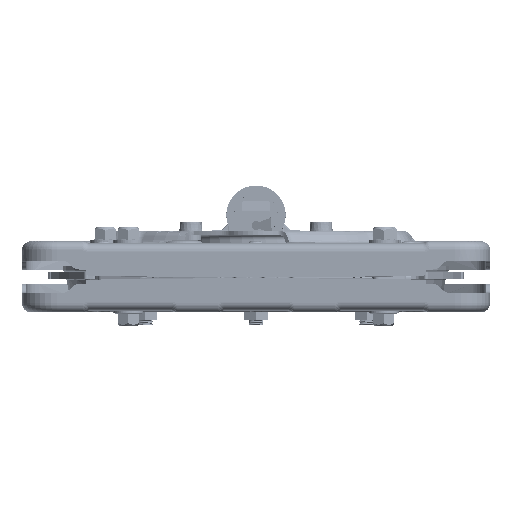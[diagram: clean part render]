
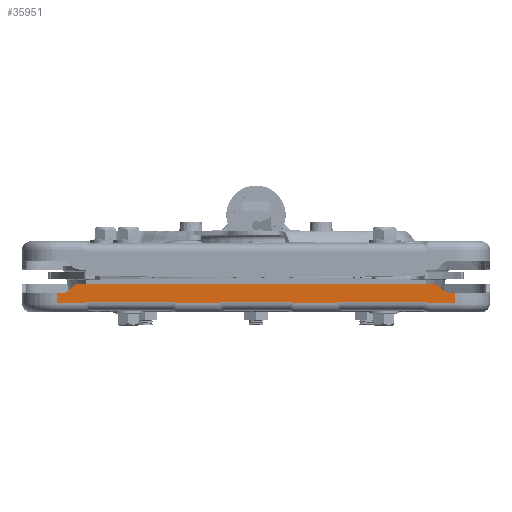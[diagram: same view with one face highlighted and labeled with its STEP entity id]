
A CAD part, left-side view. The second image highlights one B-rep face of the part: STEP entity #35951.
In plain terms, the highlighted planar face has unit normal (-1, 0, 0).
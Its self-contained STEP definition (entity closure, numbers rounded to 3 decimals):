
#34042=AXIS2_PLACEMENT_3D('Circle Axis2P3D',#34040,#34041,$) ;
#34097=AXIS2_PLACEMENT_3D('Circle Axis2P3D',#34095,#34096,$) ;
#34639=AXIS2_PLACEMENT_3D('Circle Axis2P3D',#34637,#34638,$) ;
#34687=AXIS2_PLACEMENT_3D('Circle Axis2P3D',#34685,#34686,$) ;
#35820=AXIS2_PLACEMENT_3D('Plane Axis2P3D',#35817,#35818,#35819) ;
#35838=AXIS2_PLACEMENT_3D('Circle Axis2P3D',#35836,#35837,$) ;
#35852=AXIS2_PLACEMENT_3D('Circle Axis2P3D',#35850,#35851,$) ;
#35866=AXIS2_PLACEMENT_3D('Circle Axis2P3D',#35864,#35865,$) ;
#35880=AXIS2_PLACEMENT_3D('Circle Axis2P3D',#35878,#35879,$) ;
#35894=AXIS2_PLACEMENT_3D('Circle Axis2P3D',#35892,#35893,$) ;
#35908=AXIS2_PLACEMENT_3D('Circle Axis2P3D',#35906,#35907,$) ;
#34040=CARTESIAN_POINT('Axis2P3D Location',(-225.,-99.929,11.)) ;
#34044=CARTESIAN_POINT('Vertex',(-225.,-99.929,16.)) ;
#34046=CARTESIAN_POINT('Vertex',(-225.,-103.464,14.536)) ;
#34071=CARTESIAN_POINT('Line Origine',(-225.,-104.5,13.5)) ;
#34075=CARTESIAN_POINT('Vertex',(-225.,-105.536,12.464)) ;
#34095=CARTESIAN_POINT('Axis2P3D Location',(-225.,-109.071,16.)) ;
#34099=CARTESIAN_POINT('Vertex',(-225.,-109.071,11.)) ;
#34140=CARTESIAN_POINT('Line Origine',(-225.,-110.536,11.)) ;
#34144=CARTESIAN_POINT('Vertex',(-225.,-112.,11.)) ;
#34605=CARTESIAN_POINT('Vertex',(-225.,112.,11.)) ;
#34608=CARTESIAN_POINT('Line Origine',(-225.,110.536,11.)) ;
#34612=CARTESIAN_POINT('Vertex',(-225.,109.071,11.)) ;
#34637=CARTESIAN_POINT('Axis2P3D Location',(-225.,109.071,16.)) ;
#34641=CARTESIAN_POINT('Vertex',(-225.,105.536,12.464)) ;
#34661=CARTESIAN_POINT('Line Origine',(-225.,104.5,13.5)) ;
#34665=CARTESIAN_POINT('Vertex',(-225.,103.464,14.536)) ;
#34685=CARTESIAN_POINT('Axis2P3D Location',(-225.,99.929,11.)) ;
#34689=CARTESIAN_POINT('Vertex',(-225.,99.929,16.)) ;
#34709=CARTESIAN_POINT('Line Origine',(-225.,0.,16.)) ;
#35817=CARTESIAN_POINT('Axis2P3D Location',(-225.,132.,0.)) ;
#35822=CARTESIAN_POINT('Line Origine',(-225.,112.,8.)) ;
#35826=CARTESIAN_POINT('Vertex',(-225.,112.,5.)) ;
#35829=CARTESIAN_POINT('Line Origine',(-225.,104.803,5.)) ;
#35833=CARTESIAN_POINT('Vertex',(-225.,97.606,5.)) ;
#35836=CARTESIAN_POINT('Axis2P3D Location',(-225.,94.,-1.)) ;
#35840=CARTESIAN_POINT('Vertex',(-225.,94.,6.)) ;
#35843=CARTESIAN_POINT('Line Origine',(-225.,71.,6.)) ;
#35847=CARTESIAN_POINT('Vertex',(-225.,48.,6.)) ;
#35850=CARTESIAN_POINT('Axis2P3D Location',(-225.,48.,-1.)) ;
#35854=CARTESIAN_POINT('Vertex',(-225.,44.394,5.)) ;
#35857=CARTESIAN_POINT('Line Origine',(-225.,33.,5.)) ;
#35861=CARTESIAN_POINT('Vertex',(-225.,21.606,5.)) ;
#35864=CARTESIAN_POINT('Axis2P3D Location',(-225.,18.,-1.)) ;
#35868=CARTESIAN_POINT('Vertex',(-225.,18.,6.)) ;
#35871=CARTESIAN_POINT('Line Origine',(-225.,0.,6.)) ;
#35875=CARTESIAN_POINT('Vertex',(-225.,-18.,6.)) ;
#35878=CARTESIAN_POINT('Axis2P3D Location',(-225.,-18.,-1.)) ;
#35882=CARTESIAN_POINT('Vertex',(-225.,-21.606,5.)) ;
#35885=CARTESIAN_POINT('Line Origine',(-225.,-33.,5.)) ;
#35889=CARTESIAN_POINT('Vertex',(-225.,-44.394,5.)) ;
#35892=CARTESIAN_POINT('Axis2P3D Location',(-225.,-48.,-1.)) ;
#35896=CARTESIAN_POINT('Vertex',(-225.,-48.,6.)) ;
#35899=CARTESIAN_POINT('Line Origine',(-225.,-71.,6.)) ;
#35903=CARTESIAN_POINT('Vertex',(-225.,-94.,6.)) ;
#35906=CARTESIAN_POINT('Axis2P3D Location',(-225.,-94.,-1.)) ;
#35910=CARTESIAN_POINT('Vertex',(-225.,-97.606,5.)) ;
#35913=CARTESIAN_POINT('Line Origine',(-225.,-104.803,5.)) ;
#35917=CARTESIAN_POINT('Vertex',(-225.,-112.,5.)) ;
#35920=CARTESIAN_POINT('Line Origine',(-225.,-112.,8.)) ;
#34041=DIRECTION('Axis2P3D Direction',(-1.,0.,0.)) ;
#34072=DIRECTION('Vector Direction',(0.,0.707,0.707)) ;
#34096=DIRECTION('Axis2P3D Direction',(-1.,0.,-0.)) ;
#34141=DIRECTION('Vector Direction',(0.,-1.,0.)) ;
#34609=DIRECTION('Vector Direction',(0.,1.,0.)) ;
#34638=DIRECTION('Axis2P3D Direction',(1.,0.,0.)) ;
#34662=DIRECTION('Vector Direction',(0.,-0.707,0.707)) ;
#34686=DIRECTION('Axis2P3D Direction',(1.,0.,-0.)) ;
#34710=DIRECTION('Vector Direction',(0.,-1.,0.)) ;
#35818=DIRECTION('Axis2P3D Direction',(-1.,-0.,0.)) ;
#35819=DIRECTION('Axis2P3D XDirection',(0.,-1.,-0.)) ;
#35823=DIRECTION('Vector Direction',(0.,0.,1.)) ;
#35830=DIRECTION('Vector Direction',(0.,-1.,0.)) ;
#35837=DIRECTION('Axis2P3D Direction',(-1.,-0.,0.)) ;
#35844=DIRECTION('Vector Direction',(0.,-1.,0.)) ;
#35851=DIRECTION('Axis2P3D Direction',(-1.,-0.,0.)) ;
#35858=DIRECTION('Vector Direction',(0.,-1.,0.)) ;
#35865=DIRECTION('Axis2P3D Direction',(-1.,-0.,0.)) ;
#35872=DIRECTION('Vector Direction',(0.,-1.,0.)) ;
#35879=DIRECTION('Axis2P3D Direction',(-1.,-0.,0.)) ;
#35886=DIRECTION('Vector Direction',(0.,-1.,0.)) ;
#35893=DIRECTION('Axis2P3D Direction',(-1.,-0.,0.)) ;
#35900=DIRECTION('Vector Direction',(0.,-1.,0.)) ;
#35907=DIRECTION('Axis2P3D Direction',(-1.,-0.,0.)) ;
#35914=DIRECTION('Vector Direction',(0.,-1.,0.)) ;
#35921=DIRECTION('Vector Direction',(0.,0.,1.)) ;
#34073=VECTOR('Line Direction',#34072,1.) ;
#34142=VECTOR('Line Direction',#34141,1.) ;
#34610=VECTOR('Line Direction',#34609,1.) ;
#34663=VECTOR('Line Direction',#34662,1.) ;
#34711=VECTOR('Line Direction',#34710,1.) ;
#35824=VECTOR('Line Direction',#35823,1.) ;
#35831=VECTOR('Line Direction',#35830,1.) ;
#35845=VECTOR('Line Direction',#35844,1.) ;
#35859=VECTOR('Line Direction',#35858,1.) ;
#35873=VECTOR('Line Direction',#35872,1.) ;
#35887=VECTOR('Line Direction',#35886,1.) ;
#35901=VECTOR('Line Direction',#35900,1.) ;
#35915=VECTOR('Line Direction',#35914,1.) ;
#35922=VECTOR('Line Direction',#35921,1.) ;
#35926=ORIENTED_EDGE('',*,*,#34713,.T.) ;
#35927=ORIENTED_EDGE('',*,*,#34691,.F.) ;
#35928=ORIENTED_EDGE('',*,*,#34667,.F.) ;
#35929=ORIENTED_EDGE('',*,*,#34643,.F.) ;
#35930=ORIENTED_EDGE('',*,*,#34614,.T.) ;
#35931=ORIENTED_EDGE('',*,*,#35828,.F.) ;
#35932=ORIENTED_EDGE('',*,*,#35835,.F.) ;
#35933=ORIENTED_EDGE('',*,*,#35842,.F.) ;
#35934=ORIENTED_EDGE('',*,*,#35849,.F.) ;
#35935=ORIENTED_EDGE('',*,*,#35856,.F.) ;
#35936=ORIENTED_EDGE('',*,*,#35863,.F.) ;
#35937=ORIENTED_EDGE('',*,*,#35870,.F.) ;
#35938=ORIENTED_EDGE('',*,*,#35877,.F.) ;
#35939=ORIENTED_EDGE('',*,*,#35884,.F.) ;
#35940=ORIENTED_EDGE('',*,*,#35891,.F.) ;
#35941=ORIENTED_EDGE('',*,*,#35898,.F.) ;
#35942=ORIENTED_EDGE('',*,*,#35905,.F.) ;
#35943=ORIENTED_EDGE('',*,*,#35912,.F.) ;
#35944=ORIENTED_EDGE('',*,*,#35919,.F.) ;
#35945=ORIENTED_EDGE('',*,*,#35924,.T.) ;
#35946=ORIENTED_EDGE('',*,*,#34146,.F.) ;
#35947=ORIENTED_EDGE('',*,*,#34101,.F.) ;
#35948=ORIENTED_EDGE('',*,*,#34077,.T.) ;
#35949=ORIENTED_EDGE('',*,*,#34048,.F.) ;
#35951=ADVANCED_FACE('\X2\5E9590E894A391D1\X0\1',(#35950),#35821,.T.) ;
#34043=CIRCLE('generated circle',#34042,5.) ;
#34098=CIRCLE('generated circle',#34097,5.) ;
#34640=CIRCLE('generated circle',#34639,5.) ;
#34688=CIRCLE('generated circle',#34687,5.) ;
#35839=CIRCLE('generated circle',#35838,7.) ;
#35853=CIRCLE('generated circle',#35852,7.) ;
#35867=CIRCLE('generated circle',#35866,7.) ;
#35881=CIRCLE('generated circle',#35880,7.) ;
#35895=CIRCLE('generated circle',#35894,7.) ;
#35909=CIRCLE('generated circle',#35908,7.) ;
#34048=EDGE_CURVE('',#34045,#34047,#34043,.F.) ;
#34077=EDGE_CURVE('',#34076,#34047,#34074,.T.) ;
#34101=EDGE_CURVE('',#34076,#34100,#34098,.T.) ;
#34146=EDGE_CURVE('',#34100,#34145,#34143,.T.) ;
#34614=EDGE_CURVE('',#34613,#34606,#34611,.T.) ;
#34643=EDGE_CURVE('',#34613,#34642,#34640,.F.) ;
#34667=EDGE_CURVE('',#34642,#34666,#34664,.T.) ;
#34691=EDGE_CURVE('',#34666,#34690,#34688,.T.) ;
#34713=EDGE_CURVE('',#34045,#34690,#34712,.F.) ;
#35828=EDGE_CURVE('',#35827,#34606,#35825,.T.) ;
#35835=EDGE_CURVE('',#35834,#35827,#35832,.F.) ;
#35842=EDGE_CURVE('',#35841,#35834,#35839,.T.) ;
#35849=EDGE_CURVE('',#35848,#35841,#35846,.F.) ;
#35856=EDGE_CURVE('',#35855,#35848,#35853,.T.) ;
#35863=EDGE_CURVE('',#35862,#35855,#35860,.F.) ;
#35870=EDGE_CURVE('',#35869,#35862,#35867,.T.) ;
#35877=EDGE_CURVE('',#35876,#35869,#35874,.F.) ;
#35884=EDGE_CURVE('',#35883,#35876,#35881,.T.) ;
#35891=EDGE_CURVE('',#35890,#35883,#35888,.F.) ;
#35898=EDGE_CURVE('',#35897,#35890,#35895,.T.) ;
#35905=EDGE_CURVE('',#35904,#35897,#35902,.F.) ;
#35912=EDGE_CURVE('',#35911,#35904,#35909,.T.) ;
#35919=EDGE_CURVE('',#35918,#35911,#35916,.F.) ;
#35924=EDGE_CURVE('',#35918,#34145,#35923,.T.) ;
#35925=EDGE_LOOP('',(#35926,#35927,#35928,#35929,#35930,#35931,#35932,#35933,#35934,#35935,#35936,#35937,#35938,#35939,#35940,#35941,#35942,#35943,#35944,#35945,#35946,#35947,#35948,#35949)) ;
#35950=FACE_OUTER_BOUND('',#35925,.T.) ;
#34074=LINE('Line',#34071,#34073) ;
#34143=LINE('Line',#34140,#34142) ;
#34611=LINE('Line',#34608,#34610) ;
#34664=LINE('Line',#34661,#34663) ;
#34712=LINE('Line',#34709,#34711) ;
#35825=LINE('Line',#35822,#35824) ;
#35832=LINE('Line',#35829,#35831) ;
#35846=LINE('Line',#35843,#35845) ;
#35860=LINE('Line',#35857,#35859) ;
#35874=LINE('Line',#35871,#35873) ;
#35888=LINE('Line',#35885,#35887) ;
#35902=LINE('Line',#35899,#35901) ;
#35916=LINE('Line',#35913,#35915) ;
#35923=LINE('Line',#35920,#35922) ;
#35821=PLANE('Plane',#35820) ;
#34045=VERTEX_POINT('',#34044) ;
#34047=VERTEX_POINT('',#34046) ;
#34076=VERTEX_POINT('',#34075) ;
#34100=VERTEX_POINT('',#34099) ;
#34145=VERTEX_POINT('',#34144) ;
#34606=VERTEX_POINT('',#34605) ;
#34613=VERTEX_POINT('',#34612) ;
#34642=VERTEX_POINT('',#34641) ;
#34666=VERTEX_POINT('',#34665) ;
#34690=VERTEX_POINT('',#34689) ;
#35827=VERTEX_POINT('',#35826) ;
#35834=VERTEX_POINT('',#35833) ;
#35841=VERTEX_POINT('',#35840) ;
#35848=VERTEX_POINT('',#35847) ;
#35855=VERTEX_POINT('',#35854) ;
#35862=VERTEX_POINT('',#35861) ;
#35869=VERTEX_POINT('',#35868) ;
#35876=VERTEX_POINT('',#35875) ;
#35883=VERTEX_POINT('',#35882) ;
#35890=VERTEX_POINT('',#35889) ;
#35897=VERTEX_POINT('',#35896) ;
#35904=VERTEX_POINT('',#35903) ;
#35911=VERTEX_POINT('',#35910) ;
#35918=VERTEX_POINT('',#35917) ;
